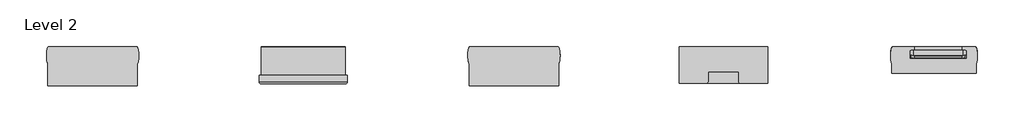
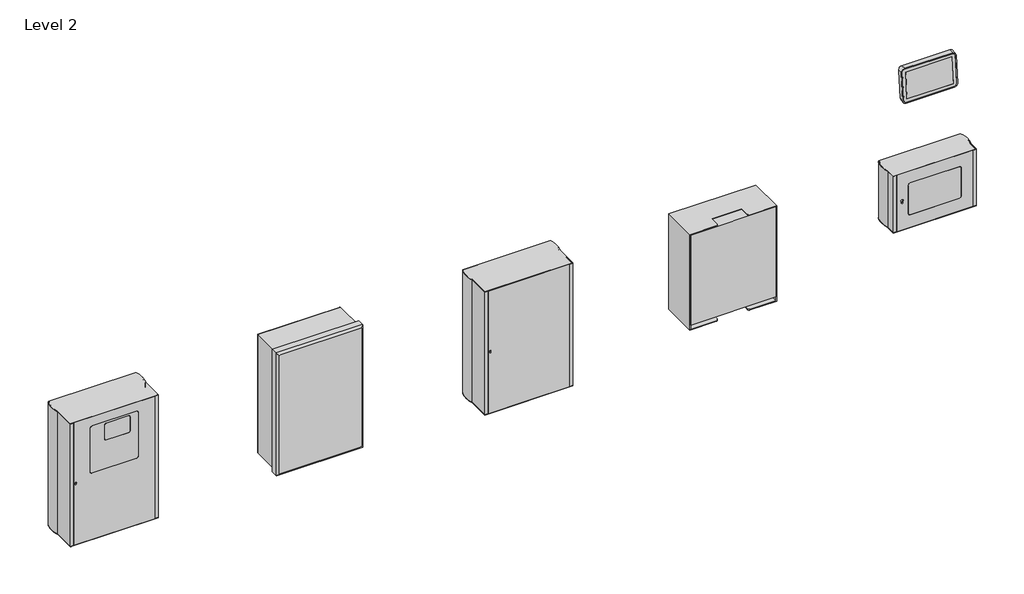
# One storey, incomplete: 6 alarms.
"""IFC4 building model written with IfcOpenShell, lengths in millimetres."""

from ifc_helpers import new_model, si_unit, origin, place, context, project, spatial, transform, mapped, element, save
from components import alarm_5000s_0b88c54d, alarm_5001s_ca98def9, alarm_5013_cabinet_for_drawings_5013_d29890c5, alarm_5014_8c05c2c1, alarm_5054_5055_display_unit_with_cabinet_5054_5055_d95cda29, alarm_5054_display_unit_5054_106c486f

model = new_model("IFC4")

# Units and contexts
model_context = context("Model", 3, world=origin())
ifc_project = project(units=[si_unit("LENGTHUNIT", "METRE", prefix="MILLI")], contexts=[model_context])

# Site, building, storey
site = spatial("IfcSite", under=ifc_project)
building = spatial("IfcBuilding", under=site)
storey = spatial("IfcBuildingStorey", under=building, Name="Level 2", Elevation=3000.0)

# Alarms
placement = place(None, origin())
alarm_5000s_shape = alarm_5000s_0b88c54d(model_context)
element("IfcAlarm", 1, ObjectType="5000S_Control Panel and Indicating Equipment : 5000S", at=placement, inside=storey, context=model_context, shape_type="MappedRepresentation", body=[
    mapped(alarm_5000s_shape, transform((-4522.5746592, 3147.8550077, 1888.8300658), x_axis=(1.0, 0.0, 0.0), y_axis=(0.0, 0.0, 1.0), z_axis=(0.0, -1.0, 0.0))),
])
alarm_5001s_shape = alarm_5001s_ca98def9(model_context)
element("IfcAlarm", 2, ObjectType="5001S_Control Panel and Indicating Equipment : 5001S", at=placement, inside=storey, context=model_context, shape_type="MappedRepresentation", body=[
    mapped(alarm_5001s_shape, transform((-3522.5746592, 3147.8550077, 1888.8300658), x_axis=(1.0, 0.0, 0.0), y_axis=(0.0, 0.0, 1.0), z_axis=(0.0, -1.0, 0.0))),
])
alarm_5013_cabinet_for_drawings_5013_shape = alarm_5013_cabinet_for_drawings_5013_d29890c5(model_context)
element("IfcAlarm", 3, ObjectType="5013_Cabinet for Drawings : 5013", at=placement, inside=storey, context=model_context, shape_type="MappedRepresentation", body=[
    mapped(alarm_5013_cabinet_for_drawings_5013_shape, transform((-2522.5746592, 3147.8550077, 1861.3580348), x_axis=(1.0, 0.0, 0.0), y_axis=(0.0, 0.0, 1.0), z_axis=(0.0, -1.0, 0.0))),
])
alarm_5014_shape = alarm_5014_8c05c2c1(model_context)
element("IfcAlarm", 4, ObjectType="5014_Cabinet for Batteries : 5014", at=placement, inside=storey, context=model_context, shape_type="MappedRepresentation", body=[
    mapped(alarm_5014_shape, transform((-1528.2663028, 3147.8550077, 1868.2260426), x_axis=(1.0, 0.0, 0.0), y_axis=(0.0, 0.0, 1.0), z_axis=(0.0, -1.0, 0.0))),
])
alarm_5054_5055_display_unit_with_cabinet_5054_5055_shape = alarm_5054_5055_display_unit_with_cabinet_5054_5055_d95cda29(model_context)
element("IfcAlarm", 5, ObjectType="5054_5055_Display Unit with Cabinet : 5054_5055", at=placement, inside=storey, context=model_context, shape_type="MappedRepresentation", body=[
    mapped(alarm_5054_5055_display_unit_with_cabinet_5054_5055_shape, transform((-528.2663028, 3147.8550077, 1881.962058), x_axis=(1.0, 0.0, 0.0), y_axis=(0.0, 0.0, 1.0), z_axis=(0.0, -1.0, 0.0))),
])
alarm_5054_display_unit_5054_shape = alarm_5054_display_unit_5054_106c486f(model_context)
element("IfcAlarm", 6, ObjectType="5054_Display Unit : 5054", at=placement, inside=storey, context=model_context, shape_type="MappedRepresentation", body=[
    mapped(alarm_5054_display_unit_5054_shape, transform((-508.2663028, 3147.8550077, 2403.9306464), x_axis=(1.0, 0.0, 0.0), y_axis=(0.0, 0.0, 1.0), z_axis=(0.0, -1.0, 0.0))),
])

save(model, "model.ifc")
